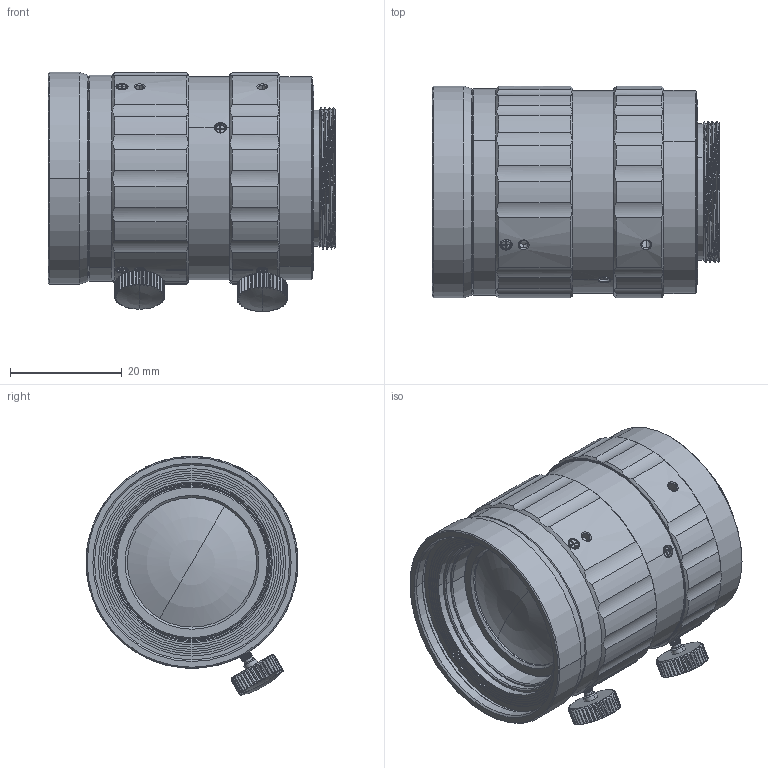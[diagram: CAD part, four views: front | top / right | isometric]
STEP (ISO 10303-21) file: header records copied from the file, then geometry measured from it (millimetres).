
FILE_DESCRIPTION((''),'2;1');
FILE_NAME('FA3520A-200_ASM_ASM','2018-12-18T',('Administrator'),(''),'PRO/ENGINEER BY PARAMETRIC TECHNOLOGY CORPORATION, 2010370','PRO/ENGINEER BY PARAMETRIC TECHNOLOGY CORPORATION, 2010370','');
FILE_SCHEMA(('CONFIG_CONTROL_DESIGN'));
Length unit declared in the file: millimetre
Products named in the file (22): MSBR-70; MSBR-69; MSBR-59; MSBR-58; MSBR-57; MSBR-56; MSBR-55; MSBR-54; MSBR-21; MSBR-20; MSBR-16; MSBR-15; MSBR-14; MSBR-13; MSBR-12; MSBR-11; MSBR-6; MSBR-5; MSBR-4; MSBR-2; MSBR-1; FA3520A-200_ASM_ASM
Assembly tree (21 placements, depth 2):
  FA3520A-200_ASM_ASM
    MSBR-70
    MSBR-69
    MSBR-59
    MSBR-58
    MSBR-57
    MSBR-56
    MSBR-55
    MSBR-54
    MSBR-21
    MSBR-20
    MSBR-16
    MSBR-15
    MSBR-14
    MSBR-13
    MSBR-12
    MSBR-11
    MSBR-6
    MSBR-5
    MSBR-4
    MSBR-2
    MSBR-1
Bounding box: 51.58 x 38 x 42.9 mm (x, y, z)
Volume: 27740.3 mm3; surface area: 31089.9 mm2
Topology: 21 solids, 21 shells, 1175 faces, 2951 edges, 1849 vertices
Faces by surface type: cylinder 440, plane 330, cone 275, bspline 86, torus 32, sphere 12
Entity records: 51589 total; most frequent: CARTESIAN_POINT 23543, ORIENTED_EDGE 5878, DIRECTION 5742, EDGE_CURVE 2939, AXIS2_PLACEMENT_3D 2358, VERTEX_POINT 1849, EDGE_LOOP 1286, CIRCLE 1226
